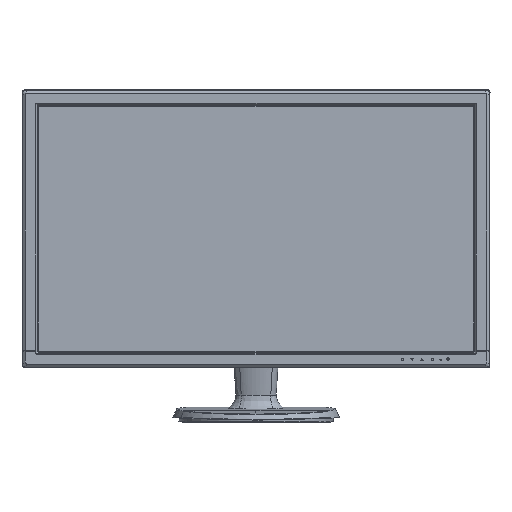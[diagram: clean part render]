
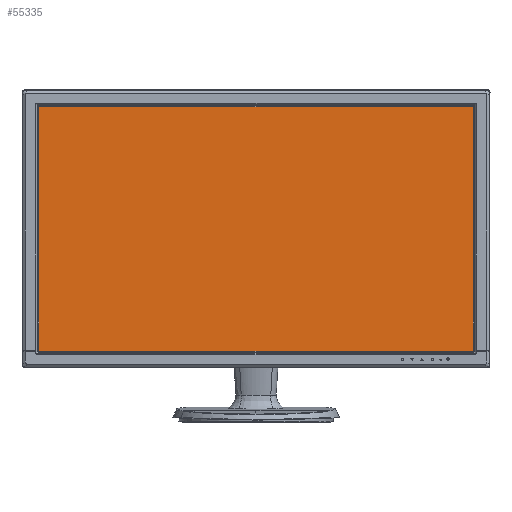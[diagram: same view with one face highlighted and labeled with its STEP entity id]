
A CAD part, top view. The second image highlights one B-rep face of the part: STEP entity #55335.
In plain terms, the highlighted planar face has unit normal (0, 0, 1).
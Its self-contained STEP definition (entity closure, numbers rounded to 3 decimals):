
#3592 = CARTESIAN_POINT ( 'NONE',  ( -260.64, 146.61, 1.91 ) ) ;
#13754 = LINE ( 'NONE', #190633, #181656 ) ;
#14626 = CARTESIAN_POINT ( 'NONE',  ( -260.64, -146.61, 1.91 ) ) ;
#15776 = EDGE_CURVE ( 'NONE', #84174, #158382, #128352, .T. ) ;
#19170 = ORIENTED_EDGE ( 'NONE', *, *, #15776, .T. ) ;
#26853 = DIRECTION ( 'NONE',  ( 0., 1., 0. ) ) ;
#32916 = VECTOR ( 'NONE', #112469, 1000. ) ;
#34192 = AXIS2_PLACEMENT_3D ( 'NONE', #102771, #48767, #200959 ) ;
#40753 = VERTEX_POINT ( 'NONE', #71643 ) ;
#48767 = DIRECTION ( 'NONE',  ( 0., 0., 1. ) ) ;
#51947 = DIRECTION ( 'NONE',  ( 0., -1., 0. ) ) ;
#55335 = ADVANCED_FACE ( 'NONE', ( #109271 ), #85512, .T. ) ;
#61293 = CARTESIAN_POINT ( 'NONE',  ( 260.64, 146.61, 1.91 ) ) ;
#71643 = CARTESIAN_POINT ( 'NONE',  ( -260.64, 146.61, 1.91 ) ) ;
#84174 = VERTEX_POINT ( 'NONE', #14626 ) ;
#85512 = PLANE ( 'NONE',  #34192 ) ;
#86280 = EDGE_LOOP ( 'NONE', ( #153128, #19170, #196412, #91367 ) ) ;
#91367 = ORIENTED_EDGE ( 'NONE', *, *, #156218, .T. ) ;
#91582 = VECTOR ( 'NONE', #51947, 1000. ) ;
#102771 = CARTESIAN_POINT ( 'NONE',  ( 0., 0., 1.91 ) ) ;
#104559 = VERTEX_POINT ( 'NONE', #61293 ) ;
#109271 = FACE_OUTER_BOUND ( 'NONE', #86280, .T. ) ;
#112469 = DIRECTION ( 'NONE',  ( 1., 0., 0. ) ) ;
#114629 = EDGE_CURVE ( 'NONE', #158382, #104559, #13754, .T. ) ;
#120241 = LINE ( 'NONE', #178391, #140962 ) ;
#125130 = LINE ( 'NONE', #3592, #91582 ) ;
#128345 = EDGE_CURVE ( 'NONE', #40753, #84174, #125130, .T. ) ;
#128352 = LINE ( 'NONE', #195539, #32916 ) ;
#140962 = VECTOR ( 'NONE', #212209, 1000. ) ;
#153128 = ORIENTED_EDGE ( 'NONE', *, *, #128345, .T. ) ;
#154645 = CARTESIAN_POINT ( 'NONE',  ( 260.64, -146.61, 1.91 ) ) ;
#156218 = EDGE_CURVE ( 'NONE', #104559, #40753, #120241, .T. ) ;
#158382 = VERTEX_POINT ( 'NONE', #154645 ) ;
#178391 = CARTESIAN_POINT ( 'NONE',  ( -260.64, 146.61, 1.91 ) ) ;
#181656 = VECTOR ( 'NONE', #26853, 1000. ) ;
#190633 = CARTESIAN_POINT ( 'NONE',  ( 260.64, 146.61, 1.91 ) ) ;
#195539 = CARTESIAN_POINT ( 'NONE',  ( -260.64, -146.61, 1.91 ) ) ;
#196412 = ORIENTED_EDGE ( 'NONE', *, *, #114629, .T. ) ;
#200959 = DIRECTION ( 'NONE',  ( 1., 0., 0. ) ) ;
#212209 = DIRECTION ( 'NONE',  ( -1., 0., 0. ) ) ;
